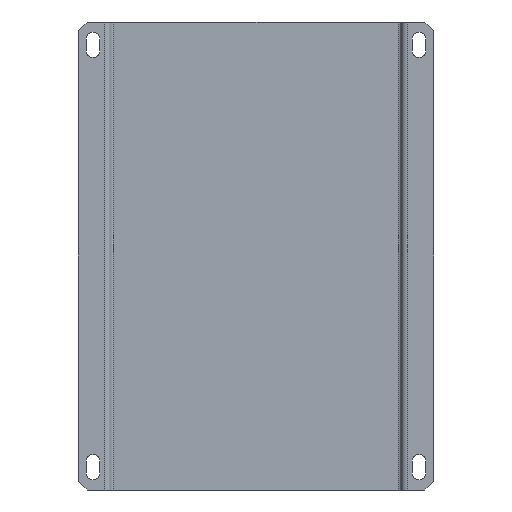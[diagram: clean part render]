
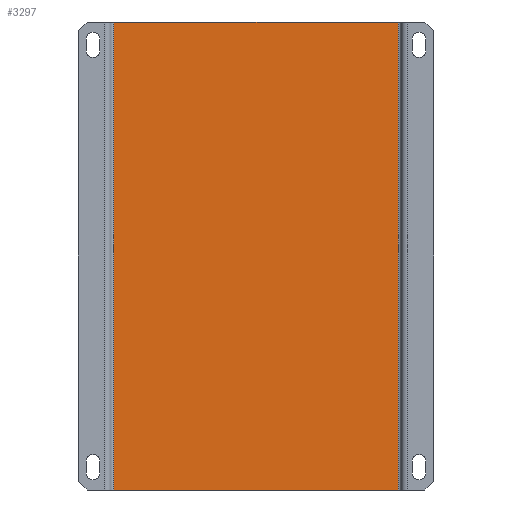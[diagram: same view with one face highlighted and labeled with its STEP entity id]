
A CAD part, front view. The second image highlights one B-rep face of the part: STEP entity #3297.
In plain terms, the highlighted planar face has unit normal (0, -1, 0).
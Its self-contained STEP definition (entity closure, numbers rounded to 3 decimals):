
#133 = EDGE_CURVE ( 'NONE', #3527, #9025, #5404, .T. ) ;
#144 = EDGE_CURVE ( 'NONE', #3527, #4976, #688, .T. ) ;
#364 = LINE ( 'NONE', #6890, #4208 ) ;
#688 = LINE ( 'NONE', #9633, #7022 ) ;
#949 = PLANE ( 'NONE',  #2061 ) ;
#1157 = EDGE_CURVE ( 'NONE', #4976, #7965, #4265, .T. ) ;
#1242 = DIRECTION ( 'NONE',  ( 1., 0., 0. ) ) ;
#1274 = ORIENTED_EDGE ( 'NONE', *, *, #144, .T. ) ;
#1352 = VECTOR ( 'NONE', #1242, 1000. ) ;
#2043 = FACE_OUTER_BOUND ( 'NONE', #5258, .T. ) ;
#2048 = DIRECTION ( 'NONE',  ( 0., 1., 0. ) ) ;
#2061 = AXIS2_PLACEMENT_3D ( 'NONE', #6309, #2048, #9880 ) ;
#3290 = ORIENTED_EDGE ( 'NONE', *, *, #3869, .F. ) ;
#3297 = ADVANCED_FACE ( 'NONE', ( #2043 ), #949, .F. ) ;
#3364 = DIRECTION ( 'NONE',  ( 0., 0., -1. ) ) ;
#3508 = DIRECTION ( 'NONE',  ( 1., 0., 0. ) ) ;
#3527 = VERTEX_POINT ( 'NONE', #4457 ) ;
#3869 = EDGE_CURVE ( 'NONE', #9025, #7965, #364, .T. ) ;
#4208 = VECTOR ( 'NONE', #5969, 1000. ) ;
#4265 = LINE ( 'NONE', #8219, #1352 ) ;
#4457 = CARTESIAN_POINT ( 'NONE',  ( -96., 23., 316. ) ) ;
#4976 = VERTEX_POINT ( 'NONE', #9863 ) ;
#5258 = EDGE_LOOP ( 'NONE', ( #8237, #3290, #8440, #1274 ) ) ;
#5404 = LINE ( 'NONE', #6968, #9653 ) ;
#5690 = CARTESIAN_POINT ( 'NONE',  ( 96., 23., 316. ) ) ;
#5969 = DIRECTION ( 'NONE',  ( 0., 0., -1. ) ) ;
#6309 = CARTESIAN_POINT ( 'NONE',  ( -96., 23., 316. ) ) ;
#6890 = CARTESIAN_POINT ( 'NONE',  ( 96., 23., 316. ) ) ;
#6968 = CARTESIAN_POINT ( 'NONE',  ( -96., 23., 316. ) ) ;
#7022 = VECTOR ( 'NONE', #3364, 1000. ) ;
#7965 = VERTEX_POINT ( 'NONE', #9949 ) ;
#8219 = CARTESIAN_POINT ( 'NONE',  ( -96., 23., 0. ) ) ;
#8237 = ORIENTED_EDGE ( 'NONE', *, *, #1157, .T. ) ;
#8440 = ORIENTED_EDGE ( 'NONE', *, *, #133, .F. ) ;
#9025 = VERTEX_POINT ( 'NONE', #5690 ) ;
#9633 = CARTESIAN_POINT ( 'NONE',  ( -96., 23., 316. ) ) ;
#9653 = VECTOR ( 'NONE', #3508, 1000. ) ;
#9863 = CARTESIAN_POINT ( 'NONE',  ( -96., 23., 0. ) ) ;
#9880 = DIRECTION ( 'NONE',  ( 0., 0., 1. ) ) ;
#9949 = CARTESIAN_POINT ( 'NONE',  ( 96., 23., 0. ) ) ;
